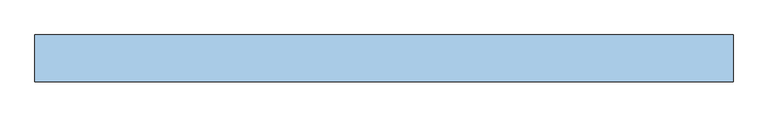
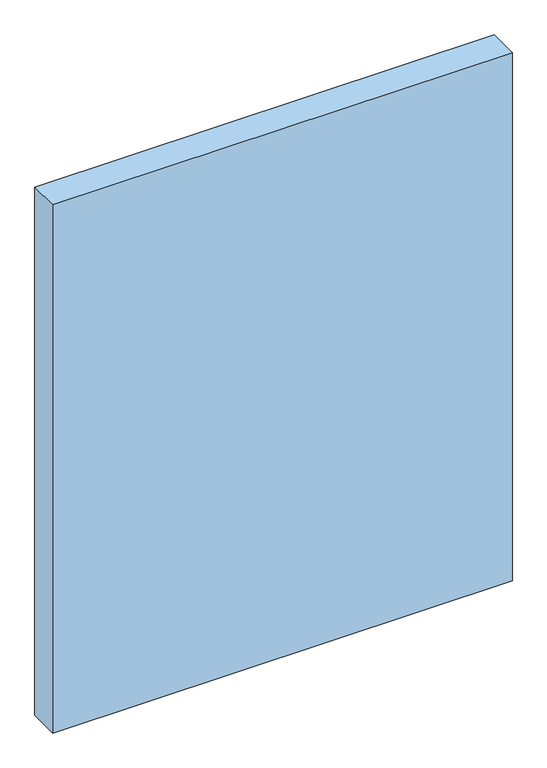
"""IFC4 building model written with IfcOpenShell, lengths in millimetres: window geometry, Dr_Проем-Четверти_окно : ОК."""

from ifc_helpers import new_model, si_unit, frame, origin, place, context, project, spatial, polyline, outline, extrude, source, transform, mapped, element, save


def window_41388849(model_context):
    return source(origin(), model_context, "Body", "SweptSolid", [
        extrude(outline(polyline([(1255.0, 50.0), (1255.0, -100.0), (-985.0, -100.0), (-985.0, 50.0), (1255.0, 50.0)])), frame((0.0, 0.0, -60.0), z_axis=(0.0, 0.0, 1.0), x_axis=(1.0, 0.0, 0.0)), (0.0, 0.0, 1.0), 2720.0),
    ])


if __name__ == "__main__":
    model = new_model("IFC4")
    model_context = context("Model", 3, world=origin())
    ifc_project = project(units=[si_unit("LENGTHUNIT", "METRE", prefix="MILLI")], contexts=[model_context])
    site = spatial("IfcSite", under=ifc_project)
    building = spatial("IfcBuilding", under=site)
    placement = place(None, origin())
    window_shape = window_41388849(model_context)
    element("IfcWindow", 1, ObjectType="Dr_Проем-Четверти_окно : ОК", at=placement, inside=building, context=model_context, shape_type="MappedRepresentation", body=[
        mapped(window_shape, transform((0.0, 0.0, 0.0), x_axis=(1.0, 0.0, 0.0), y_axis=(0.0, 1.0, 0.0), z_axis=(0.0, 0.0, 1.0))),
    ])
    save(model, "model.ifc")
